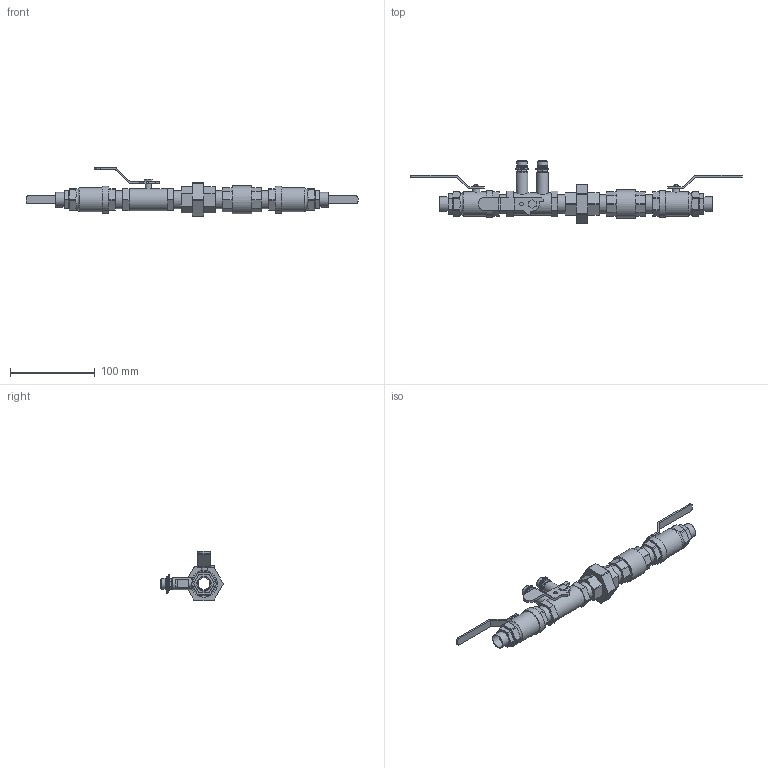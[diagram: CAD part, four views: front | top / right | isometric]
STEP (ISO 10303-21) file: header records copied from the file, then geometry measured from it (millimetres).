
FILE_DESCRIPTION(/* description */ ('VIC DOMESTIC WATER KIT FOR HYDRONIC BALANCING SERIES 7WB (SWT)','CAx-IF Rec.Pracs.---Representation and Presentation of Product Manufacturing Information (PMI)---4.0---2014-10-13'),/* implementation_level */ '2;1');
FILE_NAME(/* name */ 'C:\Users\Vjadhav\AppData\Roaming\Autodesk\ApplicationPlugins\Victaulic.Temp\A168\Victaulic_Domestic Water Kit for Hydronic Balancing_Series 7WB (CPF)_SWT_0.5 (15).stp',/* time_stamp */ '2021-08-10T10:54:44+05:00',/* author */ ('Vjadhav'),/* organization */ ('Victaulic'),/* preprocessor_version */ 'ST-DEVELOPER v17.2',/* originating_system */ 'Autodesk Inventor 2019',/* authorisation */ '');
FILE_SCHEMA (('AP242_MANAGED_MODEL_BASED_3D_ENGINEERING_MIM_LF { 1 0 10303 442 1 1 4 }'));
Length unit declared in the file: inch
Products named in the file (7): 7WB_SWT-0.5; Union_BR_386-0.5; 78BL-0.5; Check_Valve_4133-0.5; Nipple_BR_386_Swt-0.5; 722L_Swt-0.5; Adapter_Sweat_604-0.5
Assembly tree (11 placements, depth 2):
  7WB_SWT-0.5
    Union_BR_386-0.5
    Nipple_BR_386_Swt-0.5  x4
    78BL-0.5
    722L_Swt-0.5  x2
    Check_Valve_4133-0.5
    Adapter_Sweat_604-0.5  x2
Bounding box: 390.65 x 73.61 x 57.91 mm (x, y, z)
Volume: 146776.1 mm3; surface area: 81437.5 mm2
Topology: 13 solids, 13 shells, 448 faces, 1182 edges, 789 vertices
Faces by surface type: plane 325, cylinder 115, cone 6, torus 2
Full cylindrical faces by diameter (mm): 3.81 x2, 4.318 x1, 7.62 x1, 8.763 x2, 12.7 x2, 13.868 x2, 13.97 x2, 15.799 x4, 15.875 x2, 15.9 x4, 16.256 x1, 17.297 x2, 21.336 x16, 26.086 x1, 28.567 x2, 31.496 x2, 33.02 x1
Entity records: 11667 total; most frequent: CARTESIAN_POINT 2096, DIRECTION 1912, ORIENTED_EDGE 1828, EDGE_CURVE 914, AXIS2_PLACEMENT_3D 651, LINE 610, VECTOR 610, VERTEX_POINT 605
